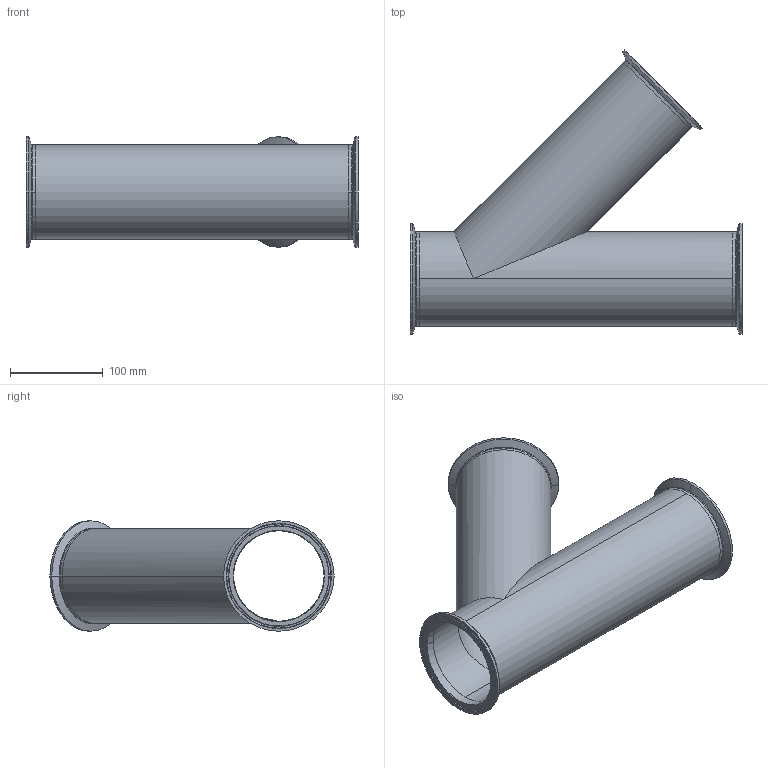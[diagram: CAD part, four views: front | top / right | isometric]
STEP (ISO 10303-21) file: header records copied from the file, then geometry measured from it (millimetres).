
FILE_DESCRIPTION (( 'STEP AP214' ), '1' );
FILE_NAME ('TEG28A6L4.0-...STEP', '2016-05-25T04:40:02', ( 'eran' ), ( '' ), 'SwSTEP 2.0', 'SolidWorks 2016', '' );
FILE_SCHEMA (( 'AUTOMOTIVE_DESIGN' ));
Length unit declared in the file: millimetre
Products named in the file (1): TEG28A6L4.0-..
Bounding box: 357.2 x 305.79 x 118.92 mm (x, y, z)
Volume: 405103.6 mm3; surface area: 370086 mm2
Topology: 4 solids, 4 shells, 88 faces, 210 edges, 132 vertices
Faces by surface type: bspline 30, cylinder 28, cone 18, plane 12
Entity records: 4593 total; most frequent: CARTESIAN_POINT 2531, DIRECTION 438, ORIENTED_EDGE 420, EDGE_CURVE 210, AXIS2_PLACEMENT_3D 195, CIRCLE 136, VERTEX_POINT 132, EDGE_LOOP 100
